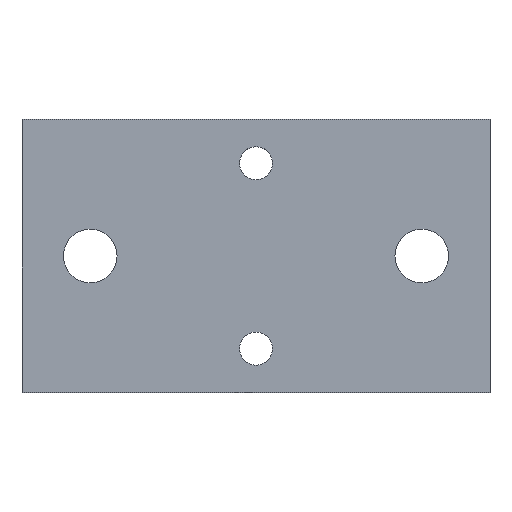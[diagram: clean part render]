
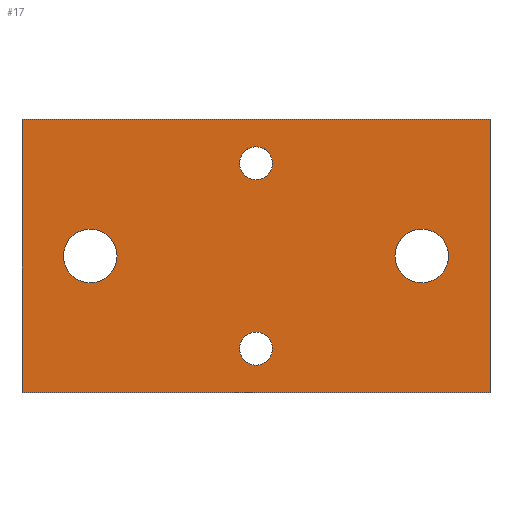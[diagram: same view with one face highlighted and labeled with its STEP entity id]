
A CAD part, top view. The second image highlights one B-rep face of the part: STEP entity #17.
In plain terms, the highlighted planar face has unit normal (0, 0, 1).
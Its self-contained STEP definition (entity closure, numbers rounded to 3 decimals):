
#17 = ADVANCED_FACE('',(#18,#137,#168,#199,#230),#32,.F.);
#18 = FACE_BOUND('',#19,.F.);
#19 = EDGE_LOOP('',(#20,#55,#83,#111));
#20 = ORIENTED_EDGE('',*,*,#21,.F.);
#21 = EDGE_CURVE('',#22,#24,#26,.T.);
#22 = VERTEX_POINT('',#23);
#23 = CARTESIAN_POINT('',(0.,0.,5.));
#24 = VERTEX_POINT('',#25);
#25 = CARTESIAN_POINT('',(48.,0.,5.));
#26 = SURFACE_CURVE('',#27,(#31,#43),.PCURVE_S1.);
#27 = LINE('',#28,#29);
#28 = CARTESIAN_POINT('',(0.,0.,5.));
#29 = VECTOR('',#30,1.);
#30 = DIRECTION('',(1.,0.,0.));
#31 = PCURVE('',#32,#37);
#32 = PLANE('',#33);
#33 = AXIS2_PLACEMENT_3D('',#34,#35,#36);
#34 = CARTESIAN_POINT('',(0.,0.,5.));
#35 = DIRECTION('',(0.,0.,-1.));
#36 = DIRECTION('',(1.,0.,0.));
#37 = DEFINITIONAL_REPRESENTATION('',(#38),#42);
#38 = LINE('',#39,#40);
#39 = CARTESIAN_POINT('',(0.,0.));
#40 = VECTOR('',#41,1.);
#41 = DIRECTION('',(1.,0.));
#42 = ( GEOMETRIC_REPRESENTATION_CONTEXT(2) 
PARAMETRIC_REPRESENTATION_CONTEXT() REPRESENTATION_CONTEXT('2D SPACE',''
  ) );
#43 = PCURVE('',#44,#49);
#44 = PLANE('',#45);
#45 = AXIS2_PLACEMENT_3D('',#46,#47,#48);
#46 = CARTESIAN_POINT('',(0.,0.,5.));
#47 = DIRECTION('',(0.,1.,0.));
#48 = DIRECTION('',(1.,0.,0.));
#49 = DEFINITIONAL_REPRESENTATION('',(#50),#54);
#50 = LINE('',#51,#52);
#51 = CARTESIAN_POINT('',(0.,0.));
#52 = VECTOR('',#53,1.);
#53 = DIRECTION('',(1.,0.));
#54 = ( GEOMETRIC_REPRESENTATION_CONTEXT(2) 
PARAMETRIC_REPRESENTATION_CONTEXT() REPRESENTATION_CONTEXT('2D SPACE',''
  ) );
#55 = ORIENTED_EDGE('',*,*,#56,.T.);
#56 = EDGE_CURVE('',#22,#57,#59,.T.);
#57 = VERTEX_POINT('',#58);
#58 = CARTESIAN_POINT('',(0.,28.,5.));
#59 = SURFACE_CURVE('',#60,(#64,#71),.PCURVE_S1.);
#60 = LINE('',#61,#62);
#61 = CARTESIAN_POINT('',(0.,0.,5.));
#62 = VECTOR('',#63,1.);
#63 = DIRECTION('',(0.,1.,0.));
#64 = PCURVE('',#32,#65);
#65 = DEFINITIONAL_REPRESENTATION('',(#66),#70);
#66 = LINE('',#67,#68);
#67 = CARTESIAN_POINT('',(0.,0.));
#68 = VECTOR('',#69,1.);
#69 = DIRECTION('',(0.,-1.));
#70 = ( GEOMETRIC_REPRESENTATION_CONTEXT(2) 
PARAMETRIC_REPRESENTATION_CONTEXT() REPRESENTATION_CONTEXT('2D SPACE',''
  ) );
#71 = PCURVE('',#72,#77);
#72 = PLANE('',#73);
#73 = AXIS2_PLACEMENT_3D('',#74,#75,#76);
#74 = CARTESIAN_POINT('',(0.,0.,5.));
#75 = DIRECTION('',(1.,0.,0.));
#76 = DIRECTION('',(0.,0.,-1.));
#77 = DEFINITIONAL_REPRESENTATION('',(#78),#82);
#78 = LINE('',#79,#80);
#79 = CARTESIAN_POINT('',(0.,0.));
#80 = VECTOR('',#81,1.);
#81 = DIRECTION('',(0.,1.));
#82 = ( GEOMETRIC_REPRESENTATION_CONTEXT(2) 
PARAMETRIC_REPRESENTATION_CONTEXT() REPRESENTATION_CONTEXT('2D SPACE',''
  ) );
#83 = ORIENTED_EDGE('',*,*,#84,.T.);
#84 = EDGE_CURVE('',#57,#85,#87,.T.);
#85 = VERTEX_POINT('',#86);
#86 = CARTESIAN_POINT('',(48.,28.,5.));
#87 = SURFACE_CURVE('',#88,(#92,#99),.PCURVE_S1.);
#88 = LINE('',#89,#90);
#89 = CARTESIAN_POINT('',(0.,28.,5.));
#90 = VECTOR('',#91,1.);
#91 = DIRECTION('',(1.,0.,0.));
#92 = PCURVE('',#32,#93);
#93 = DEFINITIONAL_REPRESENTATION('',(#94),#98);
#94 = LINE('',#95,#96);
#95 = CARTESIAN_POINT('',(0.,-28.));
#96 = VECTOR('',#97,1.);
#97 = DIRECTION('',(1.,0.));
#98 = ( GEOMETRIC_REPRESENTATION_CONTEXT(2) 
PARAMETRIC_REPRESENTATION_CONTEXT() REPRESENTATION_CONTEXT('2D SPACE',''
  ) );
#99 = PCURVE('',#100,#105);
#100 = PLANE('',#101);
#101 = AXIS2_PLACEMENT_3D('',#102,#103,#104);
#102 = CARTESIAN_POINT('',(0.,28.,5.));
#103 = DIRECTION('',(0.,1.,0.));
#104 = DIRECTION('',(1.,0.,0.));
#105 = DEFINITIONAL_REPRESENTATION('',(#106),#110);
#106 = LINE('',#107,#108);
#107 = CARTESIAN_POINT('',(0.,0.));
#108 = VECTOR('',#109,1.);
#109 = DIRECTION('',(1.,0.));
#110 = ( GEOMETRIC_REPRESENTATION_CONTEXT(2) 
PARAMETRIC_REPRESENTATION_CONTEXT() REPRESENTATION_CONTEXT('2D SPACE',''
  ) );
#111 = ORIENTED_EDGE('',*,*,#112,.F.);
#112 = EDGE_CURVE('',#24,#85,#113,.T.);
#113 = SURFACE_CURVE('',#114,(#118,#125),.PCURVE_S1.);
#114 = LINE('',#115,#116);
#115 = CARTESIAN_POINT('',(48.,0.,5.));
#116 = VECTOR('',#117,1.);
#117 = DIRECTION('',(0.,1.,0.));
#118 = PCURVE('',#32,#119);
#119 = DEFINITIONAL_REPRESENTATION('',(#120),#124);
#120 = LINE('',#121,#122);
#121 = CARTESIAN_POINT('',(48.,0.));
#122 = VECTOR('',#123,1.);
#123 = DIRECTION('',(0.,-1.));
#124 = ( GEOMETRIC_REPRESENTATION_CONTEXT(2) 
PARAMETRIC_REPRESENTATION_CONTEXT() REPRESENTATION_CONTEXT('2D SPACE',''
  ) );
#125 = PCURVE('',#126,#131);
#126 = PLANE('',#127);
#127 = AXIS2_PLACEMENT_3D('',#128,#129,#130);
#128 = CARTESIAN_POINT('',(48.,0.,5.));
#129 = DIRECTION('',(1.,0.,0.));
#130 = DIRECTION('',(0.,0.,-1.));
#131 = DEFINITIONAL_REPRESENTATION('',(#132),#136);
#132 = LINE('',#133,#134);
#133 = CARTESIAN_POINT('',(0.,0.));
#134 = VECTOR('',#135,1.);
#135 = DIRECTION('',(0.,1.));
#136 = ( GEOMETRIC_REPRESENTATION_CONTEXT(2) 
PARAMETRIC_REPRESENTATION_CONTEXT() REPRESENTATION_CONTEXT('2D SPACE',''
  ) );
#137 = FACE_BOUND('',#138,.F.);
#138 = EDGE_LOOP('',(#139));
#139 = ORIENTED_EDGE('',*,*,#140,.F.);
#140 = EDGE_CURVE('',#141,#141,#143,.T.);
#141 = VERTEX_POINT('',#142);
#142 = CARTESIAN_POINT('',(25.7,23.5,5.));
#143 = SURFACE_CURVE('',#144,(#149,#156),.PCURVE_S1.);
#144 = CIRCLE('',#145,1.7);
#145 = AXIS2_PLACEMENT_3D('',#146,#147,#148);
#146 = CARTESIAN_POINT('',(24.,23.5,5.));
#147 = DIRECTION('',(0.,0.,-1.));
#148 = DIRECTION('',(1.,0.,0.));
#149 = PCURVE('',#32,#150);
#150 = DEFINITIONAL_REPRESENTATION('',(#151),#155);
#151 = CIRCLE('',#152,1.7);
#152 = AXIS2_PLACEMENT_2D('',#153,#154);
#153 = CARTESIAN_POINT('',(24.,-23.5));
#154 = DIRECTION('',(1.,0.));
#155 = ( GEOMETRIC_REPRESENTATION_CONTEXT(2) 
PARAMETRIC_REPRESENTATION_CONTEXT() REPRESENTATION_CONTEXT('2D SPACE',''
  ) );
#156 = PCURVE('',#157,#162);
#157 = CYLINDRICAL_SURFACE('',#158,1.7);
#158 = AXIS2_PLACEMENT_3D('',#159,#160,#161);
#159 = CARTESIAN_POINT('',(24.,23.5,470.));
#160 = DIRECTION('',(0.,0.,-1.));
#161 = DIRECTION('',(1.,0.,0.));
#162 = DEFINITIONAL_REPRESENTATION('',(#163),#167);
#163 = LINE('',#164,#165);
#164 = CARTESIAN_POINT('',(0.,465.));
#165 = VECTOR('',#166,1.);
#166 = DIRECTION('',(1.,0.));
#167 = ( GEOMETRIC_REPRESENTATION_CONTEXT(2) 
PARAMETRIC_REPRESENTATION_CONTEXT() REPRESENTATION_CONTEXT('2D SPACE',''
  ) );
#168 = FACE_BOUND('',#169,.F.);
#169 = EDGE_LOOP('',(#170));
#170 = ORIENTED_EDGE('',*,*,#171,.F.);
#171 = EDGE_CURVE('',#172,#172,#174,.T.);
#172 = VERTEX_POINT('',#173);
#173 = CARTESIAN_POINT('',(9.75,14.,5.));
#174 = SURFACE_CURVE('',#175,(#180,#187),.PCURVE_S1.);
#175 = CIRCLE('',#176,2.75);
#176 = AXIS2_PLACEMENT_3D('',#177,#178,#179);
#177 = CARTESIAN_POINT('',(7.,14.,5.));
#178 = DIRECTION('',(0.,0.,-1.));
#179 = DIRECTION('',(1.,0.,0.));
#180 = PCURVE('',#32,#181);
#181 = DEFINITIONAL_REPRESENTATION('',(#182),#186);
#182 = CIRCLE('',#183,2.75);
#183 = AXIS2_PLACEMENT_2D('',#184,#185);
#184 = CARTESIAN_POINT('',(7.,-14.));
#185 = DIRECTION('',(1.,0.));
#186 = ( GEOMETRIC_REPRESENTATION_CONTEXT(2) 
PARAMETRIC_REPRESENTATION_CONTEXT() REPRESENTATION_CONTEXT('2D SPACE',''
  ) );
#187 = PCURVE('',#188,#193);
#188 = CYLINDRICAL_SURFACE('',#189,2.75);
#189 = AXIS2_PLACEMENT_3D('',#190,#191,#192);
#190 = CARTESIAN_POINT('',(7.,14.,470.));
#191 = DIRECTION('',(0.,0.,-1.));
#192 = DIRECTION('',(1.,0.,0.));
#193 = DEFINITIONAL_REPRESENTATION('',(#194),#198);
#194 = LINE('',#195,#196);
#195 = CARTESIAN_POINT('',(0.,465.));
#196 = VECTOR('',#197,1.);
#197 = DIRECTION('',(1.,0.));
#198 = ( GEOMETRIC_REPRESENTATION_CONTEXT(2) 
PARAMETRIC_REPRESENTATION_CONTEXT() REPRESENTATION_CONTEXT('2D SPACE',''
  ) );
#199 = FACE_BOUND('',#200,.F.);
#200 = EDGE_LOOP('',(#201));
#201 = ORIENTED_EDGE('',*,*,#202,.F.);
#202 = EDGE_CURVE('',#203,#203,#205,.T.);
#203 = VERTEX_POINT('',#204);
#204 = CARTESIAN_POINT('',(43.75,14.,5.));
#205 = SURFACE_CURVE('',#206,(#211,#218),.PCURVE_S1.);
#206 = CIRCLE('',#207,2.75);
#207 = AXIS2_PLACEMENT_3D('',#208,#209,#210);
#208 = CARTESIAN_POINT('',(41.,14.,5.));
#209 = DIRECTION('',(0.,0.,-1.));
#210 = DIRECTION('',(1.,0.,0.));
#211 = PCURVE('',#32,#212);
#212 = DEFINITIONAL_REPRESENTATION('',(#213),#217);
#213 = CIRCLE('',#214,2.75);
#214 = AXIS2_PLACEMENT_2D('',#215,#216);
#215 = CARTESIAN_POINT('',(41.,-14.));
#216 = DIRECTION('',(1.,0.));
#217 = ( GEOMETRIC_REPRESENTATION_CONTEXT(2) 
PARAMETRIC_REPRESENTATION_CONTEXT() REPRESENTATION_CONTEXT('2D SPACE',''
  ) );
#218 = PCURVE('',#219,#224);
#219 = CYLINDRICAL_SURFACE('',#220,2.75);
#220 = AXIS2_PLACEMENT_3D('',#221,#222,#223);
#221 = CARTESIAN_POINT('',(41.,14.,470.));
#222 = DIRECTION('',(0.,0.,-1.));
#223 = DIRECTION('',(1.,0.,0.));
#224 = DEFINITIONAL_REPRESENTATION('',(#225),#229);
#225 = LINE('',#226,#227);
#226 = CARTESIAN_POINT('',(0.,465.));
#227 = VECTOR('',#228,1.);
#228 = DIRECTION('',(1.,0.));
#229 = ( GEOMETRIC_REPRESENTATION_CONTEXT(2) 
PARAMETRIC_REPRESENTATION_CONTEXT() REPRESENTATION_CONTEXT('2D SPACE',''
  ) );
#230 = FACE_BOUND('',#231,.F.);
#231 = EDGE_LOOP('',(#232));
#232 = ORIENTED_EDGE('',*,*,#233,.F.);
#233 = EDGE_CURVE('',#234,#234,#236,.T.);
#234 = VERTEX_POINT('',#235);
#235 = CARTESIAN_POINT('',(25.7,4.5,5.));
#236 = SURFACE_CURVE('',#237,(#242,#249),.PCURVE_S1.);
#237 = CIRCLE('',#238,1.7);
#238 = AXIS2_PLACEMENT_3D('',#239,#240,#241);
#239 = CARTESIAN_POINT('',(24.,4.5,5.));
#240 = DIRECTION('',(0.,0.,-1.));
#241 = DIRECTION('',(1.,0.,0.));
#242 = PCURVE('',#32,#243);
#243 = DEFINITIONAL_REPRESENTATION('',(#244),#248);
#244 = CIRCLE('',#245,1.7);
#245 = AXIS2_PLACEMENT_2D('',#246,#247);
#246 = CARTESIAN_POINT('',(24.,-4.5));
#247 = DIRECTION('',(1.,0.));
#248 = ( GEOMETRIC_REPRESENTATION_CONTEXT(2) 
PARAMETRIC_REPRESENTATION_CONTEXT() REPRESENTATION_CONTEXT('2D SPACE',''
  ) );
#249 = PCURVE('',#250,#255);
#250 = CYLINDRICAL_SURFACE('',#251,1.7);
#251 = AXIS2_PLACEMENT_3D('',#252,#253,#254);
#252 = CARTESIAN_POINT('',(24.,4.5,470.));
#253 = DIRECTION('',(0.,0.,-1.));
#254 = DIRECTION('',(1.,0.,0.));
#255 = DEFINITIONAL_REPRESENTATION('',(#256),#260);
#256 = LINE('',#257,#258);
#257 = CARTESIAN_POINT('',(0.,465.));
#258 = VECTOR('',#259,1.);
#259 = DIRECTION('',(1.,0.));
#260 = ( GEOMETRIC_REPRESENTATION_CONTEXT(2) 
PARAMETRIC_REPRESENTATION_CONTEXT() REPRESENTATION_CONTEXT('2D SPACE',''
  ) );
